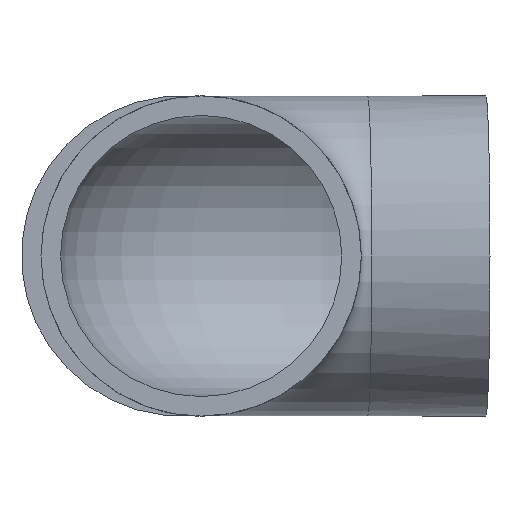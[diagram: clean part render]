
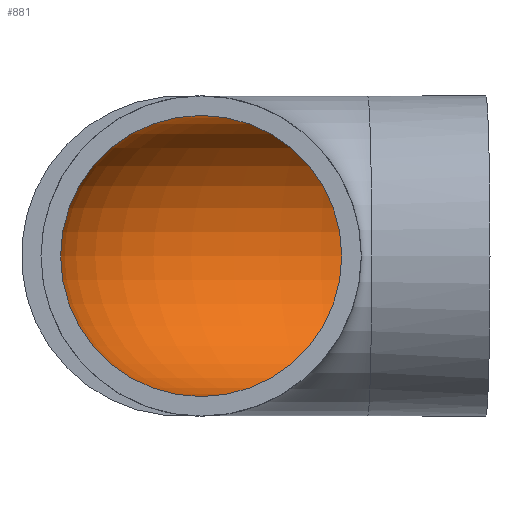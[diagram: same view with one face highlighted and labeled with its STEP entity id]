
A CAD part, front view. The second image highlights one B-rep face of the part: STEP entity #881.
In plain terms, the highlighted toroidal (fillet/blend) face has major radius 48 mm and minor radius 39.5 mm.
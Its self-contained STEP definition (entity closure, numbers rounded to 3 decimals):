
#26=FACE_BOUND($,#173,.T.);
#34=TOROIDAL_SURFACE($,#967,48.,39.5);
#109=FACE_OUTER_BOUND($,#172,.T.);
#172=EDGE_LOOP($,(#753));
#173=EDGE_LOOP($,(#754));
#297=CIRCLE($,#968,39.5);
#298=CIRCLE($,#969,39.5);
#397=VERTEX_POINT($,#2398);
#398=VERTEX_POINT($,#2400);
#519=EDGE_CURVE($,#397,#397,#297,.T.);
#520=EDGE_CURVE($,#398,#398,#298,.T.);
#753=ORIENTED_EDGE($,*,*,#519,.F.);
#754=ORIENTED_EDGE($,*,*,#520,.T.);
#881=ADVANCED_FACE($,(#109,#26),#34,.F.);
#967=AXIS2_PLACEMENT_3D($,#2397,#1138,#1139);
#968=AXIS2_PLACEMENT_3D($,#2399,#1140,#1141);
#969=AXIS2_PLACEMENT_3D($,#2401,#1142,#1143);
#1138=DIRECTION('center_axis',(0.,0.,-1.));
#1139=DIRECTION('ref_axis',(-1.,0.,0.));
#1140=DIRECTION('center_axis',(-1.,-0.026,0.));
#1141=DIRECTION('ref_axis',(0.026,-1.,0.));
#1142=DIRECTION('center_axis',(0.,-1.,0.));
#1143=DIRECTION('ref_axis',(1.,0.,0.));
#2397=CARTESIAN_POINT('Origin',(48.,33.24,0.));
#2398=CARTESIAN_POINT('',(45.71,120.71,0.));
#2399=CARTESIAN_POINT('Origin',(46.744,81.224,0.));
#2400=CARTESIAN_POINT('',(-39.5,33.24,0.));
#2401=CARTESIAN_POINT('Origin',(0.,33.24,0.));
